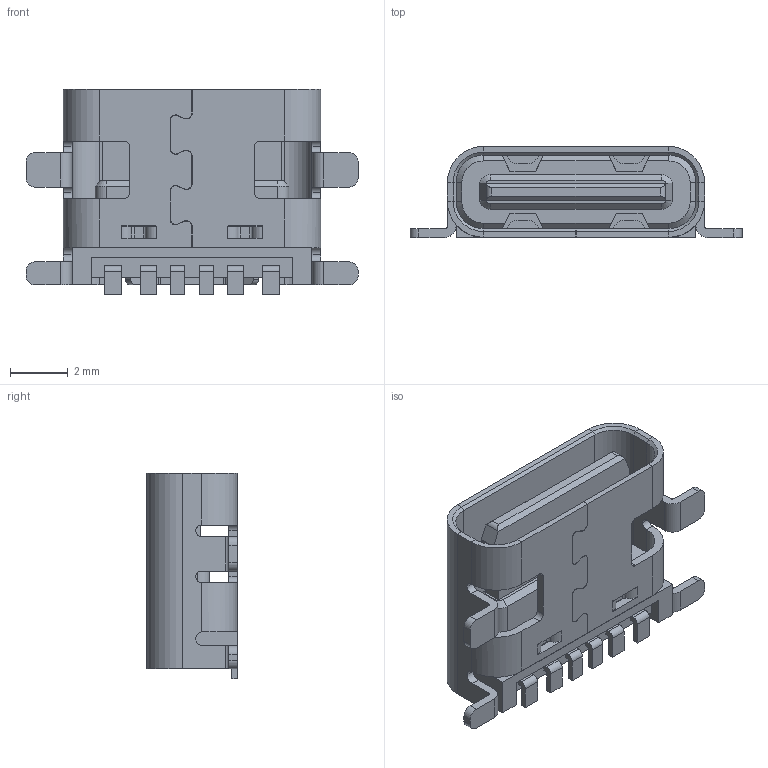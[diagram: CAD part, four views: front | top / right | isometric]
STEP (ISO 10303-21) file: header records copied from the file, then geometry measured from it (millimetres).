
FILE_DESCRIPTION (( 'STEP AP214' ), '1' );
FILE_NAME ('UJC-HP-G-5-SMT-TR.STEP', '2023-02-18T16:44:51', ( '' ), ( '' ), 'SwSTEP 2.0', 'SolidWorks 2017', '' );
FILE_SCHEMA (( 'AUTOMOTIVE_DESIGN' ));
Length unit declared in the file: millimetre
Products named in the file (2): UJC-HP-G-5-SMT-TR; UJC-HP-G-5-SMT-TR_UJC-HP-G-5-SMT-TR
Assembly tree (1 placements, depth 2):
  UJC-HP-G-5-SMT-TR
    UJC-HP-G-5-SMT-TR_UJC-HP-G-5-SMT-TR
Bounding box: 11.54 x 3.16 x 7.14 mm (x, y, z)
Volume: 101.1 mm3; surface area: 457 mm2
Topology: 8 solids, 8 shells, 411 faces, 1123 edges, 718 vertices
Faces by surface type: plane 229, cylinder 170, cone 12
Entity records: 13548 total; most frequent: CARTESIAN_POINT 2820, ORIENTED_EDGE 2246, DIRECTION 2219, EDGE_CURVE 1123, LINE 765, VECTOR 765, AXIS2_PLACEMENT_3D 727, VERTEX_POINT 718
